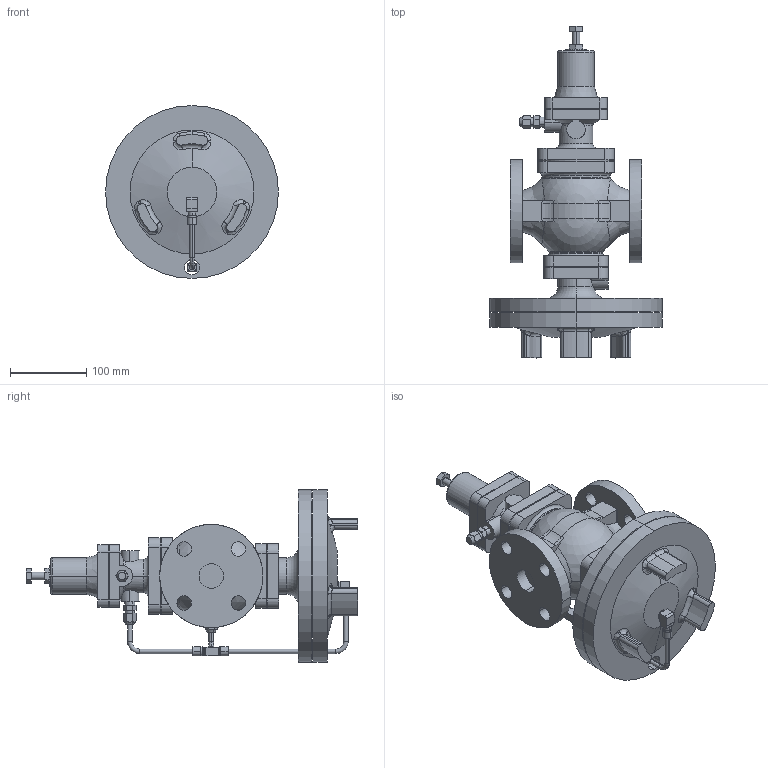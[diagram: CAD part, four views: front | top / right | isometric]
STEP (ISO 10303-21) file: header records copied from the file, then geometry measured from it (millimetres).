
FILE_DESCRIPTION (( 'STEP AP203' ), '1' );
FILE_NAME ('GPR-2000 JIS10K 32A.STEP', '2025-12-05T02:19:25', ( '' ), ( '' ), 'SwSTEP 2.0', 'SolidWorks 2024', '' );
FILE_SCHEMA (( 'CONFIG_CONTROL_DESIGN' ));
Length unit declared in the file: millimetre
Products named in the file (8): Tee; Pipe C 32-40A; GPR-2000 JIS10K 32A; GP-2000 Pipe A 32-40A; Elbow; Pipe B 32-40A; Joint; GPR-2000 Body Assy EN 32A
Assembly tree (9 placements, depth 2):
  GPR-2000 JIS10K 32A
    GPR-2000 Body Assy EN 32A
    Tee
    Pipe B 32-40A
    Joint  x3
    GP-2000 Pipe A 32-40A
    Pipe C 32-40A
    Elbow
Bounding box: 226 x 434 x 226 mm (x, y, z)
Volume: 4092139.2 mm3; surface area: 392689.5 mm2
Topology: 9 solids, 9 shells, 477 faces, 1200 edges, 783 vertices
Faces by surface type: plane 197, cylinder 185, torus 40, cone 27, bspline 24, sphere 4
Entity records: 17130 total; most frequent: CARTESIAN_POINT 5917, DIRECTION 2224, ORIENTED_EDGE 2116, EDGE_CURVE 1058, AXIS2_PLACEMENT_3D 876, VERTEX_POINT 683, EDGE_LOOP 495, LINE 472
